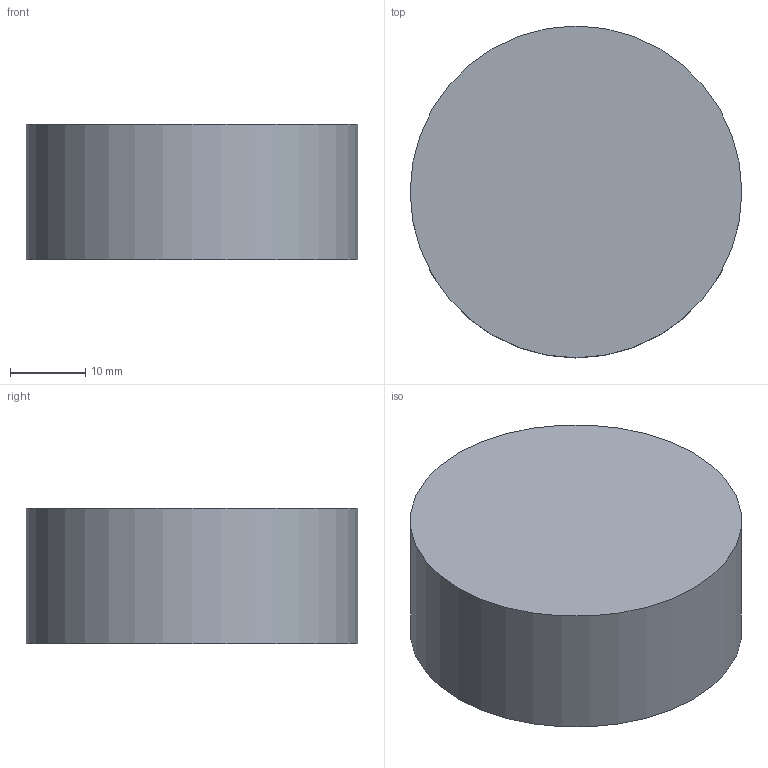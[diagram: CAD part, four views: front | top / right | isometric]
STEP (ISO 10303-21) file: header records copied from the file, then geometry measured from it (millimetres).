
FILE_DESCRIPTION(('Open CASCADE Model'),'2;1');
FILE_NAME('Open CASCADE Shape Model','2026-10-04T01:02:24',('Author'),( 'Open CASCADE'),'Open CASCADE STEP processor 8.0','Open CASCADE 8.0' ,'Unknown');
FILE_SCHEMA(('AUTOMOTIVE_DESIGN { 1 0 10303 214 1 1 1 1 }'));
Length unit declared in the file: millimetre
Products named in the file (1): Open CASCADE STEP translator 8.0 18
Bounding box: 44 x 44 x 18 mm (x, y, z)
Volume: 27369.6 mm3; surface area: 5529.2 mm2
Topology: 1 solids, 1 shells, 3 faces, 3 edges, 2 vertices
Faces by surface type: plane 2, cylinder 1
Full cylindrical faces by diameter (mm): 44 x1
Entity records: 108 total; most frequent: DIRECTION 19, CARTESIAN_POINT 15, AXIS2_PLACEMENT_3D 6, ORIENTED_EDGE 6, PCURVE 6, DEFINITIONAL_REPRESENTATION 6, LINE 5, VECTOR 5
